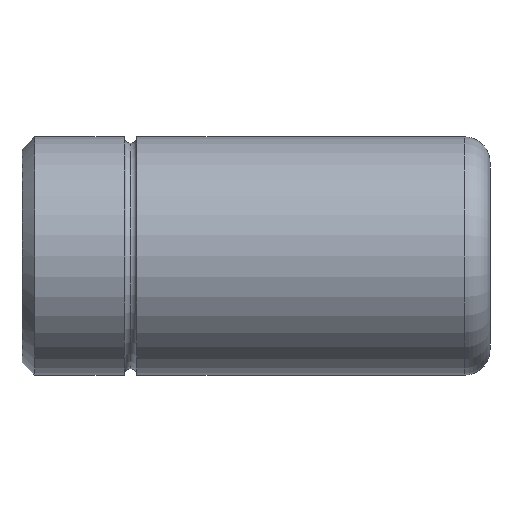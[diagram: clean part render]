
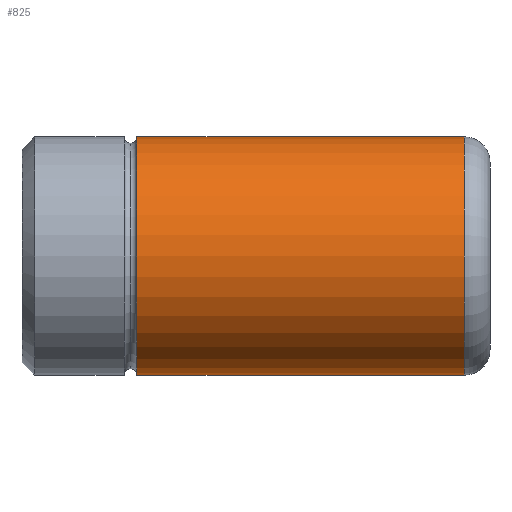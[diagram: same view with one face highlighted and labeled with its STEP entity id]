
A CAD part, front view. The second image highlights one B-rep face of the part: STEP entity #825.
In plain terms, the highlighted cylindrical face has radius 14 mm (diameter 28 mm), a partial arc.
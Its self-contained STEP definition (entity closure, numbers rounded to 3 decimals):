
#641=CARTESIAN_POINT('Vertex',(13.5,0.,14.)) ;
#648=CARTESIAN_POINT('Vertex',(13.5,0.,-14.)) ;
#674=CARTESIAN_POINT('Axis2P3D Location',(13.5,0.,0.)) ;
#678=CARTESIAN_POINT('Vertex',(13.5,-14.,0.)) ;
#681=CARTESIAN_POINT('Axis2P3D Location',(13.5,0.,0.)) ;
#765=CARTESIAN_POINT('Line Origine',(55.,0.,14.)) ;
#769=CARTESIAN_POINT('Vertex',(52.,0.,14.)) ;
#783=CARTESIAN_POINT('Vertex',(52.,0.,-14.)) ;
#786=CARTESIAN_POINT('Line Origine',(55.,0.,-14.)) ;
#800=CARTESIAN_POINT('Axis2P3D Location',(55.,0.,0.)) ;
#805=CARTESIAN_POINT('Axis2P3D Location',(52.,0.,0.)) ;
#809=CARTESIAN_POINT('Vertex',(52.,-14.,0.)) ;
#812=CARTESIAN_POINT('Axis2P3D Location',(52.,0.,0.)) ;
#675=DIRECTION('Axis2P3D Direction',(1.,-0.,0.)) ;
#682=DIRECTION('Axis2P3D Direction',(1.,-0.,0.)) ;
#766=DIRECTION('Vector Direction',(-1.,0.,0.)) ;
#787=DIRECTION('Vector Direction',(-1.,0.,0.)) ;
#801=DIRECTION('Axis2P3D Direction',(-1.,-0.,-0.)) ;
#802=DIRECTION('Axis2P3D XDirection',(0.,0.,-1.)) ;
#806=DIRECTION('Axis2P3D Direction',(-1.,-0.,-0.)) ;
#813=DIRECTION('Axis2P3D Direction',(-1.,-0.,-0.)) ;
#676=AXIS2_PLACEMENT_3D('Circle Axis2P3D',#674,#675,$) ;
#683=AXIS2_PLACEMENT_3D('Circle Axis2P3D',#681,#682,$) ;
#803=AXIS2_PLACEMENT_3D('Cylinder Axis2P3D',#800,#801,#802) ;
#807=AXIS2_PLACEMENT_3D('Circle Axis2P3D',#805,#806,$) ;
#814=AXIS2_PLACEMENT_3D('Circle Axis2P3D',#812,#813,$) ;
#818=ORIENTED_EDGE('',*,*,#790,.T.) ;
#819=ORIENTED_EDGE('',*,*,#811,.F.) ;
#820=ORIENTED_EDGE('',*,*,#816,.F.) ;
#821=ORIENTED_EDGE('',*,*,#771,.T.) ;
#822=ORIENTED_EDGE('',*,*,#685,.T.) ;
#823=ORIENTED_EDGE('',*,*,#680,.T.) ;
#767=VECTOR('Line Direction',#766,1.) ;
#788=VECTOR('Line Direction',#787,1.) ;
#825=ADVANCED_FACE('343-17 x 55',(#824),#804,.T.) ;
#677=CIRCLE('generated circle',#676,14.) ;
#684=CIRCLE('generated circle',#683,14.) ;
#808=CIRCLE('generated circle',#807,14.) ;
#815=CIRCLE('generated circle',#814,14.) ;
#804=CYLINDRICAL_SURFACE('generated cylinder',#803,14.) ;
#680=EDGE_CURVE('',#679,#649,#677,.T.) ;
#685=EDGE_CURVE('',#642,#679,#684,.T.) ;
#771=EDGE_CURVE('',#770,#642,#768,.T.) ;
#790=EDGE_CURVE('',#649,#784,#789,.F.) ;
#811=EDGE_CURVE('',#810,#784,#808,.F.) ;
#816=EDGE_CURVE('',#770,#810,#815,.F.) ;
#817=EDGE_LOOP('',(#818,#819,#820,#821,#822,#823)) ;
#824=FACE_OUTER_BOUND('',#817,.T.) ;
#768=LINE('Line',#765,#767) ;
#789=LINE('Line',#786,#788) ;
#642=VERTEX_POINT('',#641) ;
#649=VERTEX_POINT('',#648) ;
#679=VERTEX_POINT('',#678) ;
#770=VERTEX_POINT('',#769) ;
#784=VERTEX_POINT('',#783) ;
#810=VERTEX_POINT('',#809) ;
